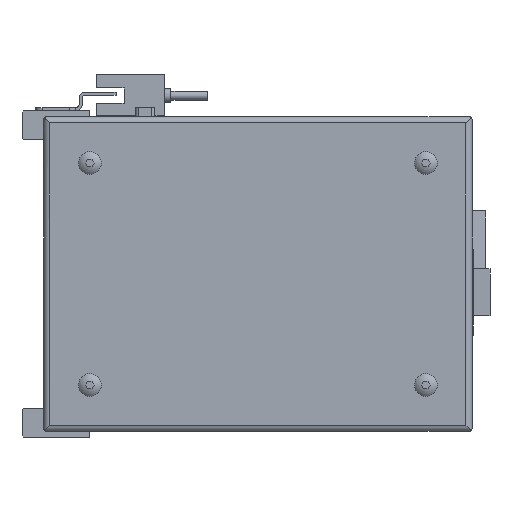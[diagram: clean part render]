
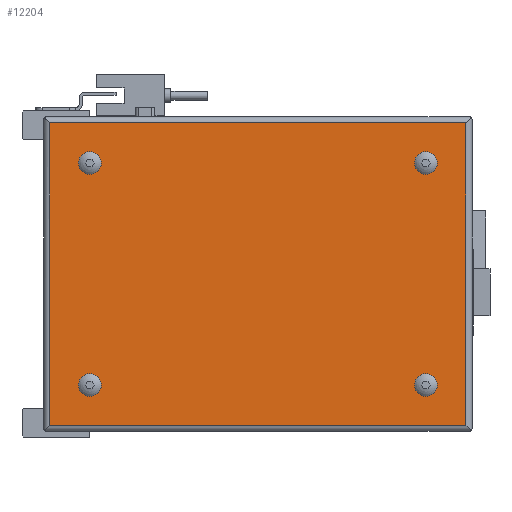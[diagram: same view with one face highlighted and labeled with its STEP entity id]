
A CAD part, left-side view. The second image highlights one B-rep face of the part: STEP entity #12204.
In plain terms, the highlighted planar face has unit normal (-1, 0, 0).
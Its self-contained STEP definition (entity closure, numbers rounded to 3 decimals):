
#338=PLANE('',#13089);
#1054=LINE('',#18539,#2329);
#1055=LINE('',#18542,#2330);
#1056=LINE('',#18544,#2331);
#1057=LINE('',#18546,#2332);
#2329=VECTOR('',#14938,1000.);
#2330=VECTOR('',#14939,1000.);
#2331=VECTOR('',#14940,1000.);
#2332=VECTOR('',#14941,1000.);
#4179=ORIENTED_EDGE('',*,*,#7228,.F.);
#4180=ORIENTED_EDGE('',*,*,#7229,.F.);
#4181=ORIENTED_EDGE('',*,*,#7230,.F.);
#4182=ORIENTED_EDGE('',*,*,#7231,.F.);
#4183=ORIENTED_EDGE('',*,*,#7232,.T.);
#4184=ORIENTED_EDGE('',*,*,#7233,.F.);
#4185=ORIENTED_EDGE('',*,*,#7234,.F.);
#4186=ORIENTED_EDGE('',*,*,#7235,.T.);
#7228=EDGE_CURVE('',#8844,#8844,#9812,.F.);
#7229=EDGE_CURVE('',#8845,#8845,#9813,.F.);
#7230=EDGE_CURVE('',#8846,#8846,#9814,.F.);
#7231=EDGE_CURVE('',#8847,#8847,#9815,.F.);
#7232=EDGE_CURVE('',#8848,#8849,#1054,.F.);
#7233=EDGE_CURVE('',#8850,#8849,#1055,.T.);
#7234=EDGE_CURVE('',#8851,#8850,#1056,.F.);
#7235=EDGE_CURVE('',#8851,#8848,#1057,.T.);
#8844=VERTEX_POINT('',#18532);
#8845=VERTEX_POINT('',#18534);
#8846=VERTEX_POINT('',#18536);
#8847=VERTEX_POINT('',#18538);
#8848=VERTEX_POINT('',#18540);
#8849=VERTEX_POINT('',#18541);
#8850=VERTEX_POINT('',#18543);
#8851=VERTEX_POINT('',#18545);
#9812=CIRCLE('',#13090,3.7);
#9813=CIRCLE('',#13091,3.7);
#9814=CIRCLE('',#13092,3.7);
#9815=CIRCLE('',#13093,3.7);
#10341=EDGE_LOOP('',(#4179));
#10342=EDGE_LOOP('',(#4180));
#10343=EDGE_LOOP('',(#4181));
#10344=EDGE_LOOP('',(#4182));
#10345=EDGE_LOOP('',(#4183,#4184,#4185,#4186));
#11206=FACE_BOUND('',#10341,.T.);
#11207=FACE_BOUND('',#10342,.T.);
#11208=FACE_BOUND('',#10343,.T.);
#11209=FACE_BOUND('',#10344,.T.);
#11210=FACE_BOUND('',#10345,.T.);
#12204=ADVANCED_FACE('',(#11206,#11207,#11208,#11209,#11210),#338,.F.);
#13089=AXIS2_PLACEMENT_3D('',#18530,#14928,#14929);
#13090=AXIS2_PLACEMENT_3D('',#18531,#14930,#14931);
#13091=AXIS2_PLACEMENT_3D('',#18533,#14932,#14933);
#13092=AXIS2_PLACEMENT_3D('',#18535,#14934,#14935);
#13093=AXIS2_PLACEMENT_3D('',#18537,#14936,#14937);
#14928=DIRECTION('',(1.,0.,0.));
#14929=DIRECTION('',(0.,0.,-1.));
#14930=DIRECTION('',(1.,0.,0.));
#14931=DIRECTION('',(0.,0.,-1.));
#14932=DIRECTION('',(1.,0.,0.));
#14933=DIRECTION('',(0.,0.,-1.));
#14934=DIRECTION('',(1.,0.,0.));
#14935=DIRECTION('',(0.,0.,-1.));
#14936=DIRECTION('',(1.,0.,0.));
#14937=DIRECTION('',(0.,0.,-1.));
#14938=DIRECTION('',(0.,-1.,0.));
#14939=DIRECTION('',(0.,0.,1.));
#14940=DIRECTION('',(0.,-1.,0.));
#14941=DIRECTION('',(0.,0.,1.));
#18530=CARTESIAN_POINT('',(-52.,-75.,50.));
#18531=CARTESIAN_POINT('',(-52.,-61.,36.));
#18532=CARTESIAN_POINT('',(-52.,-61.,32.3));
#18533=CARTESIAN_POINT('',(-52.,-61.,-36.));
#18534=CARTESIAN_POINT('',(-52.,-61.,-39.7));
#18535=CARTESIAN_POINT('',(-52.,48.,36.));
#18536=CARTESIAN_POINT('',(-52.,48.,32.3));
#18537=CARTESIAN_POINT('',(-52.,48.,-36.));
#18538=CARTESIAN_POINT('',(-52.,48.,-39.7));
#18539=CARTESIAN_POINT('',(-52.,139.,49.));
#18540=CARTESIAN_POINT('',(-52.,-74.,49.));
#18541=CARTESIAN_POINT('',(-52.,61.,49.));
#18542=CARTESIAN_POINT('',(-52.,61.,-102.));
#18543=CARTESIAN_POINT('',(-52.,61.,-49.));
#18544=CARTESIAN_POINT('',(-52.,139.,-49.));
#18545=CARTESIAN_POINT('',(-52.,-74.,-49.));
#18546=CARTESIAN_POINT('',(-52.,-74.,-102.));
